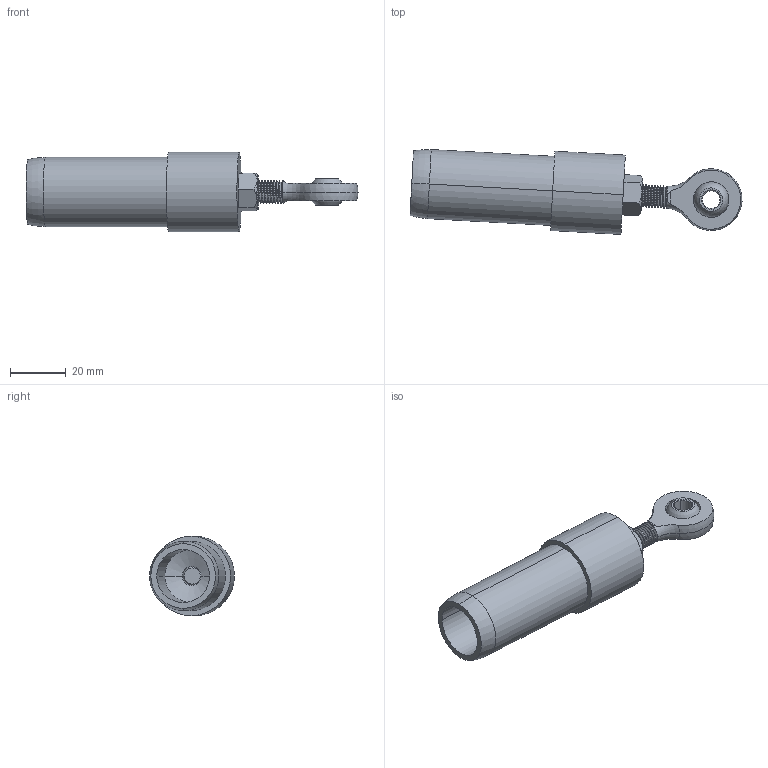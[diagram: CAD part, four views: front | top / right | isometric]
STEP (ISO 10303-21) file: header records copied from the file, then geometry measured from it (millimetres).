
FILE_DESCRIPTION (( 'STEP AP203' ), '1' );
FILE_NAME ('FDPCK-MODCON1-HEIM.step', '2019-09-11T18:45:37', ( 'ydmin' ), ( '' ), 'SwSTEP 2.0', 'SolidWorks 2017', '' );
FILE_SCHEMA (( 'CONFIG_CONTROL_DESIGN' ));
Length unit declared in the file: inch
Products named in the file (1): FDPCK-MODCON1-HEIM
Bounding box: 119.52 x 30.53 x 28.57 mm (x, y, z)
Volume: 29575.5 mm3; surface area: 15710.8 mm2
Topology: 5 solids, 5 shells, 169 faces, 416 edges, 258 vertices
Faces by surface type: cylinder 91, cone 37, plane 21, bspline 11, torus 5, sphere 4
Entity records: 13607 total; most frequent: CARTESIAN_POINT 9939, ORIENTED_EDGE 828, DIRECTION 685, EDGE_CURVE 414, AXIS2_PLACEMENT_3D 267, VERTEX_POINT 258, EDGE_LOOP 180, FACE_OUTER_BOUND 169
